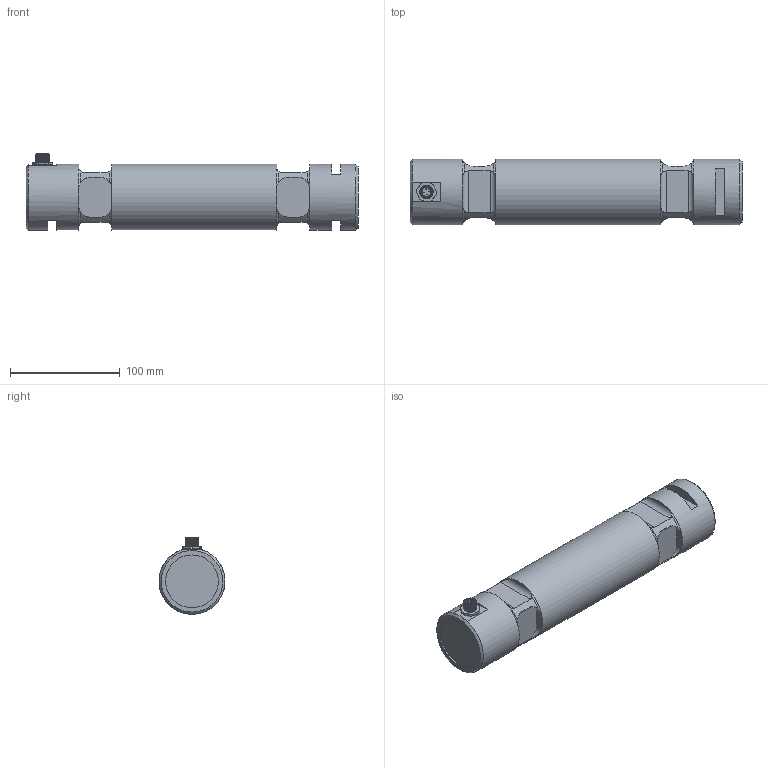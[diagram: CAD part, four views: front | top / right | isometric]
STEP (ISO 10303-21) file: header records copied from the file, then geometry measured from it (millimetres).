
FILE_DESCRIPTION(/* description */ ('Alibre Inc.'),/* implementation_level */ '2;1');
FILE_NAME(/* name */ 'export1',/* time_stamp */ '2018-03-29T14:41:45+02:00',/* author */ (''),/* organization */ (''),/* preprocessor_version */ 'ST-DEVELOPER v14',/* originating_system */ 'Alibre',/* authorisation */ '');
FILE_SCHEMA (('CONFIG_CONTROL_DESIGN'));
Length unit declared in the file: centimetre
Products named in the file (6): ID_1; ID_2; ID_3; ID_4
Bounding box: 302 x 60 x 69.62 mm (x, y, z)
Volume: 796086.3 mm3; surface area: 70117.5 mm2
Topology: 8 solids, 8 shells, 206 faces, 472 edges, 289 vertices
Faces by surface type: plane 89, cylinder 71, bspline 23, torus 17, cone 6
Full cylindrical faces by diameter (mm): 0.5 x8, 8 x2, 10 x4, 11.5 x1, 13 x1, 14.376 x1, 48 x1, 60 x3
Entity records: 18847 total; most frequent: CARTESIAN_POINT 14550, ORIENTED_EDGE 862, DIRECTION 533, EDGE_CURVE 426, VERTEX_POINT 274, FACE_BOUND 251, EDGE_LOOP 250, AXIS2_PLACEMENT_3D 236
